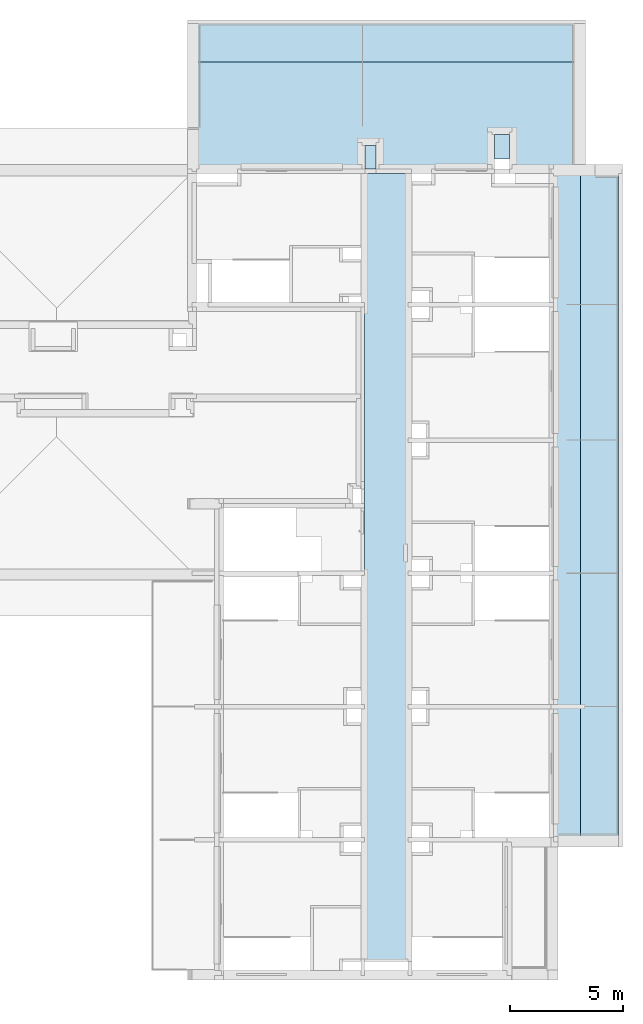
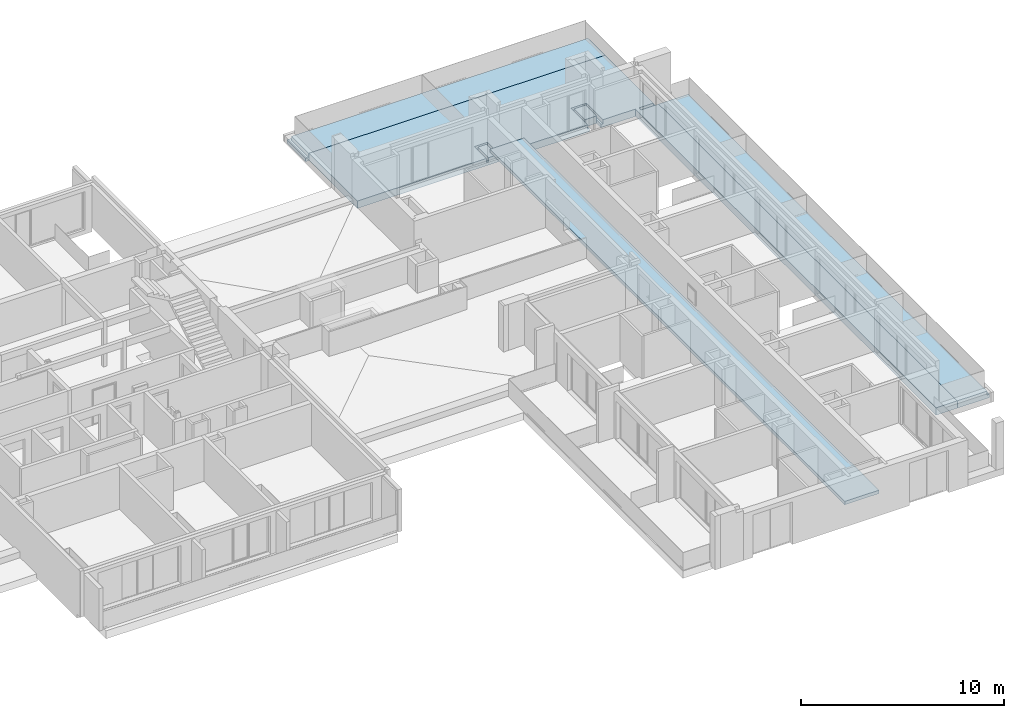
# One storey, part 7 of 30: 4 slabs.
"""IFC2X3 building model written with IfcOpenShell, lengths in millimetres."""

from ifc_helpers import new_model, entity, si_unit, converted_unit, derived_unit, money_unit, direction, frame, origin_with_axes, place, context, subcontext, project, spatial, faceted_brep, material, material_list, type_object, element, save


model = new_model("IFC2X3")

# Units and contexts
model_context = context("Model", 3, precision=0.01, world=origin_with_axes(), true_north=direction((0.34421633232, 0.938890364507)))
body_context = subcontext(model_context, "Body", "Model", "MODEL_VIEW")
ifc_project = project(units=[si_unit("LENGTHUNIT", "METRE", prefix="MILLI"), si_unit("AREAUNIT", "SQUARE_METRE"), si_unit("VOLUMEUNIT", "CUBIC_METRE"), converted_unit("PLANEANGLEUNIT", "DEGREE", entity("IfcPlaneAngleMeasure", 0.0174532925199), si_unit("PLANEANGLEUNIT", "RADIAN"), dimensions=[0, 0, 0, 0, 0, 0, 0]), si_unit("SOLIDANGLEUNIT", "STERADIAN"), money_unit("USD"), converted_unit("TIMEUNIT", "Year", entity("IfcTimeMeasure", 31556926.0), si_unit("TIMEUNIT", "SECOND"), dimensions=[0, 0, 1, 0, 0, 0, 0]), si_unit("MASSUNIT", "GRAM", prefix="KILO"), si_unit("THERMODYNAMICTEMPERATUREUNIT", "DEGREE_CELSIUS"), si_unit("LUMINOUSINTENSITYUNIT", "LUMEN"), si_unit("ENERGYUNIT", "JOULE", prefix="MEGA"), derived_unit("THERMALCONDUCTANCEUNIT", [(si_unit("POWERUNIT", "WATT"), 1), (si_unit("LENGTHUNIT", "METRE"), -1), (si_unit("THERMODYNAMICTEMPERATUREUNIT", "KELVIN"), -1)]), derived_unit("SPECIFICHEATCAPACITYUNIT", [(si_unit("ENERGYUNIT", "JOULE"), 1), (si_unit("MASSUNIT", "GRAM", prefix="KILO"), -1), (si_unit("THERMODYNAMICTEMPERATUREUNIT", "KELVIN"), -1)]), derived_unit("MASSDENSITYUNIT", [(si_unit("MASSUNIT", "GRAM", prefix="KILO"), 1), (si_unit("VOLUMEUNIT", "CUBIC_METRE"), -1)])], contexts=[model_context])

# Site, building, storey
site_placement = place(None, origin_with_axes())
site = spatial("IfcSite", under=ifc_project, at=site_placement, Name="USTRONIE MORSKIE", CompositionType="ELEMENT")
building_placement = place(site_placement, origin_with_axes())
building = spatial("IfcBuilding", under=site, at=building_placement, Name="Budynek", CompositionType="ELEMENT")
storey_placement = place(building_placement, frame((0.0, 0.0, 16000.0), z_axis=(0.0, 0.0, 1.0), x_axis=(1.0, 0.0, 0.0)))
storey = spatial("IfcBuildingStorey", under=building, at=storey_placement, Name="ANTRESOLA - KOND. TECHNICZNA", CompositionType="ELEMENT", Elevation=16000.0)

# Slabs
ifc_material_1 = material(Name="Beton konstrukcyjny B25")
slab_type_1 = type_object("IfcSlabType", Name="Beton konstrukcyjny B25 200", PredefinedType="FLOOR")
slab_1_placement = place(storey_placement, frame((416097.918273, 744601.199036, 720.0), z_axis=(0.0, 0.0, 1.0), x_axis=(1.0, 0.0, 0.0)))
element("IfcSlab", 1, at=slab_1_placement, inside=storey, type_object=slab_type_1, material=ifc_material_1, Name="P10", PredefinedType="FLOOR", context=body_context, shape_type="Brep", body=[
    faceted_brep([(0.0, 0.0, 0.0), (0.0, 0.0, -200.0), (-2.16643911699e-05, -34900.0, -200.0), (-2.16643911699e-05, -34900.0, 0.0), (1940.00264606, 0.0, 0.0), (1940.00264606, 0.0, -200.0), (1940.00264606, -34900.0, -200.0), (1940.00264606, -34900.0, 0.0)], [[[0, 1, 2, 3]], [[4, 5, 1, 0]], [[1, 5, 6, 2]], [[3, 2, 6, 7]], [[4, 0, 3, 7]], [[7, 6, 5, 4]]]),
])
ifc_material_2 = material(Name="Płytki okładzinowe")
ifc_material_3 = material(Name="Wylewka")
ifc_material_4 = material(Name="Płyty styropianowe twarde")
ifc_material_5 = material(Name="Membrana przeciwwilgociowa")
ifc_material_6 = material(Name="Tynk zewnętrzny")
ifc_material_list_1 = material_list([ifc_material_2, ifc_material_3, ifc_material_4, ifc_material_5, ifc_material_1, ifc_material_6])
slab_type_2 = type_object("IfcSlabType", Name="Balkony na FAT 2 450", PredefinedType="FLOOR")
slab_2_placement = place(storey_placement, frame((427517.914603, 744601.199036, 79.9999979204), z_axis=(0.0, 0.0, 1.0), x_axis=(1.0, 0.0, 0.0)))
element("IfcSlab", 2, at=slab_2_placement, inside=storey, type_object=slab_type_2, material=ifc_material_list_1, Name="P9", PredefinedType="FLOOR", context=body_context, shape_type="Brep", body=[
    faceted_brep([(-160.0, -29400.0, 0.0), (-160.0, -1.13686837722e-10, 0.0), (-1849.99368373, 0.0, 0.0), (-1849.99368373, -29400.0, 0.0), (-160.0, -1.13686837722e-10, -25.0), (-160.0, -29400.0, -25.0), (-1849.99368373, 0.0, -25.0), (-1849.99368373, -29400.0, -25.0)], [[[0, 1, 2, 3]], [[4, 1, 0, 5]], [[1, 4, 6, 2]], [[6, 7, 3, 2]], [[5, 0, 3, 7]], [[4, 5, 7, 6]]]),
    faceted_brep([(-160.0, -29400.0, -25.0), (-160.0, -1.13686837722e-10, -25.0), (-1849.99368373, 0.0, -25.0), (-1849.99368373, -29400.0, -25.0), (-160.0, -1.13686837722e-10, -85.0), (-160.0, -29400.0, -85.0), (-1849.99368373, 0.0, -85.0), (-1849.99368373, -29400.0, -85.0)], [[[0, 1, 2, 3]], [[4, 1, 0, 5]], [[1, 4, 6, 2]], [[6, 7, 3, 2]], [[5, 0, 3, 7]], [[4, 5, 7, 6]]]),
    faceted_brep([(-160.0, -29400.0, -85.0), (-160.0, -1.13686837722e-10, -85.0), (-1849.99368373, 0.0, -85.0), (-1849.99368373, -29400.0, -85.0), (-160.0, -1.13686837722e-10, -235.0), (-160.0, -29400.0, -235.0), (-1849.99368373, 0.0, -235.0), (-1849.99368373, -29400.0, -235.0)], [[[0, 1, 2, 3]], [[4, 1, 0, 5]], [[1, 4, 6, 2]], [[6, 7, 3, 2]], [[5, 0, 3, 7]], [[4, 5, 7, 6]]]),
    faceted_brep([(-160.0, -29400.0, -235.0), (-160.0, -1.13686837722e-10, -235.0), (-1849.99368373, 0.0, -235.0), (-1849.99368373, -29400.0, -235.0), (-160.0, -1.13686837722e-10, -240.0), (-160.0, -29400.0, -240.0), (-1849.99368373, 0.0, -240.0), (-1849.99368373, -29400.0, -240.0)], [[[0, 1, 2, 3]], [[4, 1, 0, 5]], [[1, 4, 6, 2]], [[6, 7, 3, 2]], [[5, 0, 3, 7]], [[4, 5, 7, 6]]]),
    faceted_brep([(-10.0, -29400.0, -240.0), (-10.0, 0.0, -240.0), (-1849.99368373, 0.0, -240.0), (-1849.99368373, -29400.0, -240.0), (-10.0, 0.0, -439.999999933), (-10.0, -29400.0, -439.999999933), (-1849.99368373, 0.0, -440.0), (-1849.99368373, -29400.0, -440.0)], [[[0, 1, 2, 3]], [[4, 1, 0, 5]], [[1, 4, 6, 2]], [[6, 7, 3, 2]], [[5, 0, 3, 7]], [[4, 5, 7, 6]]]),
    faceted_brep([(-1649.99368373, -29300.0, -439.999999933), (0.00613435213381, -29300.0, -439.999999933), (0.00613435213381, -99.9999999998, -439.999999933), (-1649.99368373, -99.9999999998, -440.0), (0.00613435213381, -29300.0, -450.0), (-1649.99368373, -29300.0, -450.0), (0.00613435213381, -99.9999999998, -450.0), (-1649.99368373, -99.9999999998, -450.0)], [[[0, 1, 2, 3]], [[4, 1, 0, 5]], [[1, 4, 6, 2]], [[3, 2, 6, 7]], [[5, 0, 3, 7]], [[4, 5, 7, 6]]]),
])
slab_3_placement = place(storey_placement, frame((408467.920919, 751401.199036, 79.9999979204), z_axis=(0.0, 0.0, 1.0), x_axis=(1.0, 0.0, 0.0)))
element("IfcSlab", 3, at=slab_3_placement, inside=storey, type_object=slab_type_2, material=ifc_material_list_1, Name="P3", PredefinedType="FLOOR", context=body_context, shape_type="Brep", body=[
    faceted_brep([(180.0, -160.002103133, -25.0), (180.0, -160.002103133, 0.0), (17020.0, -160.002103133, 0.0), (17020.0, -160.002103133, -25.0), (180.0, -1850.0, 0.0), (180.0, -1850.0, -25.0), (17020.0, -1850.0, 0.0), (17020.0, -1850.0, -25.0)], [[[0, 1, 2, 3]], [[4, 1, 0, 5]], [[1, 4, 6, 2]], [[3, 2, 6, 7]], [[5, 0, 3, 7]], [[4, 5, 7, 6]]]),
    faceted_brep([(180.0, -160.002103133, -85.0), (180.0, -160.002103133, -25.0), (17020.0, -160.002103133, -25.0), (17020.0, -160.002103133, -85.0), (180.0, -1850.0, -25.0), (180.0, -1850.0, -85.0), (17020.0, -1850.0, -25.0), (17020.0, -1850.0, -85.0)], [[[0, 1, 2, 3]], [[4, 1, 0, 5]], [[1, 4, 6, 2]], [[3, 2, 6, 7]], [[5, 0, 3, 7]], [[4, 5, 7, 6]]]),
    faceted_brep([(180.0, -160.002103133, -235.0), (180.0, -160.002103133, -85.0), (17020.0, -160.002103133, -85.0), (17020.0, -160.002103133, -235.0), (180.0, -1850.0, -85.0), (180.0, -1850.0, -235.0), (17020.0, -1850.0, -85.0), (17020.0, -1850.0, -235.0)], [[[0, 1, 2, 3]], [[4, 1, 0, 5]], [[1, 4, 6, 2]], [[3, 2, 6, 7]], [[5, 0, 3, 7]], [[4, 5, 7, 6]]]),
    faceted_brep([(180.0, -160.002103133, -240.0), (180.0, -160.002103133, -235.0), (17020.0, -160.002103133, -235.0), (17020.0, -160.002103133, -240.0), (180.0, -1850.0, -235.0), (180.0, -1850.0, -240.0), (17020.0, -1850.0, -235.0), (17020.0, -1850.0, -240.0)], [[[0, 1, 2, 3]], [[4, 1, 0, 5]], [[1, 4, 6, 2]], [[3, 2, 6, 7]], [[5, 0, 3, 7]], [[4, 5, 7, 6]]]),
    faceted_brep([(17200.0, -10.0021031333, -439.99999792), (17200.0, -10.0021031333, -240.0), (17200.0, -1850.0, -240.0), (17200.0, -1850.0, -440.0), (0.0, -10.0021031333, -240.0), (0.0, -10.0021031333, -439.99999792), (3.41060513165e-10, -1850.0, -240.0), (3.41060513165e-10, -1850.0, -440.0)], [[[0, 1, 2, 3]], [[4, 1, 0, 5]], [[1, 4, 6, 2]], [[7, 3, 2, 6]], [[5, 0, 3, 7]], [[4, 5, 7, 6]]]),
    faceted_brep([(300.0, -0.000181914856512, -450.0), (300.0, -0.000181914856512, -439.99999901), (16900.0, -0.000181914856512, -440.0), (16900.0, -0.000181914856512, -450.0), (300.0, -1650.00016847, -439.99999901), (300.0, -1650.00016847, -450.0), (16900.0, -1650.0141512, -439.999999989), (16900.0, -1650.0141512, -450.0)], [[[0, 1, 2, 3]], [[4, 1, 0, 5]], [[1, 4, 6, 2]], [[6, 7, 3, 2]], [[5, 0, 3, 7]], [[4, 5, 7, 6]]]),
])
ifc_material_list_2 = material_list([ifc_material_2, ifc_material_3, ifc_material_4, ifc_material_5, ifc_material_1])
slab_type_3 = type_object("IfcSlabType", Name="Tarasy kond.5 440", PredefinedType="FLOOR")
slab_4_placement = place(storey_placement, frame((408667.914324, 744801.199036, 79.9999979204), z_axis=(0.0, 0.0, 1.0), x_axis=(1.0, 0.0, 0.0)))
element("IfcSlab", 4, at=slab_4_placement, inside=storey, type_object=slab_type_3, material=ifc_material_list_2, Name="P10", PredefinedType="FLOOR", context=body_context, shape_type="Brep", body=[
    faceted_brep([(7330.00661681, 0.0, 0.0), (7330.00661681, 1049.99914858, 0.0), (7330.00661681, 1169.99914858, 0.0), (7950.00576538, 1169.99914858, 0.0), (8070.00576538, 1169.99914858, 0.0), (8070.00576538, 0.0, 0.0), (13080.0065951, 0.0, 0.0), (13080.0065951, 1520.0, 0.0), (13080.0065951, 1640.0, 0.0), (13850.0065951, 1640.0, 0.0), (13970.0065951, 1640.0, 0.0), (13970.0065951, 0.0, 0.0), (15800.0065951, -2.27373675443e-10, 0.0), (15800.0065951, -29600.0, 0.0), (17000.0065951, -29600.0, 0.0), (17000.0065951, -200.0, 0.0), (16010.0065951, -200.0, 0.0), (16010.0065951, 0.0, 0.0), (16820.0065951, 0.0, 0.0), (16820.0065951, 4750.0, 0.0), (0.0, 4750.0, 0.0), (0.0, 0.0, 0.0), (7330.00661681, 1049.99914858, -25.0), (7330.00661681, 0.0, -25.0), (7330.00661681, 1169.99914858, -25.0), (7950.00576538, 1169.99914858, -25.0), (8070.00576538, 1169.99914858, -25.0), (8070.00576538, 0.0, -25.0), (13080.0065951, 0.0, -25.0), (13080.0065951, 1520.0, -25.0), (13080.0065951, 1640.0, -25.0), (13850.0065951, 1640.0, -25.0), (13970.0065951, 1640.0, -25.0), (13970.0065951, 0.0, -25.0), (15800.0065951, -2.27373675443e-10, -25.0), (15800.0065951, -29600.0, -25.0), (17000.0065951, -29600.0, -25.0), (17000.0065951, -200.0, -25.0), (16010.0065951, -200.0, -25.0), (16010.0065951, 0.0, -25.0), (16820.0065951, 0.0, -25.0), (16820.0065951, 4750.0, -25.0), (0.0, 4750.0, -25.0), (0.0, 0.0, -25.0)], [[[0, 1, 2, 3, 4, 5, 6, 7, 8, 9, 10, 11, 12, 13, 14, 15, 16, 17, 18, 19, 20, 21]], [[22, 1, 0, 23]], [[1, 22, 24, 2]], [[25, 3, 2, 24]], [[3, 25, 26, 4]], [[5, 4, 26, 27]], [[28, 6, 5, 27]], [[29, 7, 6, 28]], [[7, 29, 30, 8]], [[31, 9, 8, 30]], [[9, 31, 32, 10]], [[10, 32, 33, 11]], [[11, 33, 34, 12]], [[34, 35, 13, 12]], [[35, 36, 14, 13]], [[37, 15, 14, 36]], [[16, 15, 37, 38]], [[17, 16, 38, 39]], [[40, 18, 17, 39]], [[18, 40, 41, 19]], [[19, 41, 42, 20]], [[42, 43, 21, 20]], [[23, 0, 21, 43]], [[22, 23, 43, 42, 41, 40, 39, 38, 37, 36, 35, 34, 33, 32, 31, 30, 29, 28, 27, 26, 25, 24]]]),
    faceted_brep([(13200.0065951, 1520.0, -25.0), (13200.0065951, 1520.0, 0.0), (13850.0065951, 1520.0, 0.0), (13850.0065951, 1520.0, -25.0), (13200.0065951, 450.0, 0.0), (13200.0065951, 450.0, -25.0), (13850.0065951, 450.0, 0.0), (13850.0065951, 450.0, -25.0)], [[[0, 1, 2, 3]], [[4, 1, 0, 5]], [[1, 4, 6, 2]], [[3, 2, 6, 7]], [[5, 0, 3, 7]], [[4, 5, 7, 6]]]),
    faceted_brep([(7450.00661681, 1049.99914858, -25.0), (7450.00661681, 1049.99914858, 0.0), (7950.00576538, 1049.99914858, 0.0), (7950.00576538, 1049.99914858, -25.0), (7450.00659514, 0.0, 0.0), (7450.00659514, 0.0, -25.0), (7950.00576538, 0.0, 0.0), (7950.00576538, 0.0, -25.0)], [[[0, 1, 2, 3]], [[4, 1, 0, 5]], [[1, 4, 6, 2]], [[3, 2, 6, 7]], [[5, 0, 3, 7]], [[4, 5, 7, 6]]]),
    faceted_brep([(7330.00661681, 0.0, -25.0), (7330.00661681, 1049.99914858, -25.0), (7330.00661681, 1169.99914858, -25.0), (7950.00576538, 1169.99914858, -25.0), (8070.00576538, 1169.99914858, -25.0), (8070.00576538, 0.0, -25.0), (13080.0065951, 0.0, -25.0), (13080.0065951, 1520.0, -25.0), (13080.0065951, 1640.0, -25.0), (13850.0065951, 1640.0, -25.0), (13970.0065951, 1640.0, -25.0), (13970.0065951, 0.0, -25.0), (15800.0065951, -2.27373675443e-10, -25.0), (15800.0065951, -29600.0, -25.0), (17000.0065951, -29600.0, -25.0), (17000.0065951, -200.0, -25.0), (16010.0065951, -200.0, -25.0), (16010.0065951, 0.0, -25.0), (16820.0065951, 0.0, -25.0), (16820.0065951, 4750.0, -25.0), (0.0, 4750.0, -25.0), (0.0, 0.0, -25.0), (7330.00661681, 1049.99914858, -85.0), (7330.00661681, 0.0, -85.0), (7330.00661681, 1169.99914858, -85.0), (7950.00576538, 1169.99914858, -85.0), (8070.00576538, 1169.99914858, -85.0), (8070.00576538, 0.0, -85.0), (13080.0065951, 0.0, -85.0), (13080.0065951, 1520.0, -85.0), (13080.0065951, 1640.0, -85.0), (13850.0065951, 1640.0, -85.0), (13970.0065951, 1640.0, -85.0), (13970.0065951, 0.0, -85.0), (15800.0065951, -2.27373675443e-10, -85.0), (15800.0065951, -29600.0, -85.0), (17000.0065951, -29600.0, -85.0), (17000.0065951, -200.0, -85.0), (16010.0065951, -200.0, -85.0), (16010.0065951, 0.0, -85.0), (16820.0065951, 0.0, -85.0), (16820.0065951, 4750.0, -85.0), (0.0, 4750.0, -85.0), (0.0, 0.0, -85.0)], [[[0, 1, 2, 3, 4, 5, 6, 7, 8, 9, 10, 11, 12, 13, 14, 15, 16, 17, 18, 19, 20, 21]], [[22, 1, 0, 23]], [[1, 22, 24, 2]], [[25, 3, 2, 24]], [[3, 25, 26, 4]], [[5, 4, 26, 27]], [[28, 6, 5, 27]], [[29, 7, 6, 28]], [[7, 29, 30, 8]], [[31, 9, 8, 30]], [[9, 31, 32, 10]], [[10, 32, 33, 11]], [[11, 33, 34, 12]], [[34, 35, 13, 12]], [[35, 36, 14, 13]], [[37, 15, 14, 36]], [[16, 15, 37, 38]], [[17, 16, 38, 39]], [[40, 18, 17, 39]], [[18, 40, 41, 19]], [[19, 41, 42, 20]], [[42, 43, 21, 20]], [[23, 0, 21, 43]], [[22, 23, 43, 42, 41, 40, 39, 38, 37, 36, 35, 34, 33, 32, 31, 30, 29, 28, 27, 26, 25, 24]]]),
    faceted_brep([(13200.0065951, 1520.0, -85.0), (13200.0065951, 1520.0, -25.0), (13850.0065951, 1520.0, -25.0), (13850.0065951, 1520.0, -85.0), (13200.0065951, 450.0, -25.0), (13200.0065951, 450.0, -85.0), (13850.0065951, 450.0, -25.0), (13850.0065951, 450.0, -85.0)], [[[0, 1, 2, 3]], [[4, 1, 0, 5]], [[1, 4, 6, 2]], [[3, 2, 6, 7]], [[5, 0, 3, 7]], [[4, 5, 7, 6]]]),
    faceted_brep([(7450.00661681, 1049.99914858, -85.0), (7450.00661681, 1049.99914858, -25.0), (7950.00576538, 1049.99914858, -25.0), (7950.00576538, 1049.99914858, -85.0), (7450.00659514, 0.0, -25.0), (7450.00659514, 0.0, -85.0), (7950.00576538, 0.0, -25.0), (7950.00576538, 0.0, -85.0)], [[[0, 1, 2, 3]], [[4, 1, 0, 5]], [[1, 4, 6, 2]], [[3, 2, 6, 7]], [[5, 0, 3, 7]], [[4, 5, 7, 6]]]),
    faceted_brep([(7330.00661681, 0.0, -85.0), (7330.00661681, 1049.99914858, -85.0), (7330.00661681, 1169.99914858, -85.0), (7950.00576538, 1169.99914858, -85.0), (8070.00576538, 1169.99914858, -85.0), (8070.00576538, 0.0, -85.0), (13080.0065951, 0.0, -85.0), (13080.0065951, 1520.0, -85.0), (13080.0065951, 1640.0, -85.0), (13850.0065951, 1640.0, -85.0), (13970.0065951, 1640.0, -85.0), (13970.0065951, 0.0, -85.0), (15800.0065951, -2.27373675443e-10, -85.0), (15800.0065951, -29600.0, -85.0), (17000.0065951, -29600.0, -85.0), (17000.0065951, -200.0, -85.0), (16010.0065951, -200.0, -85.0), (16010.0065951, 0.0, -85.0), (16820.0065951, 0.0, -85.0), (16820.0065951, 4750.0, -85.0), (0.0, 4750.0, -85.0), (0.0, 0.0, -85.0), (7330.00661681, 1049.99914858, -235.0), (7330.00661681, 0.0, -235.0), (7330.00661681, 1169.99914858, -235.0), (7950.00576538, 1169.99914858, -235.0), (8070.00576538, 1169.99914858, -235.0), (8070.00576538, 0.0, -235.0), (13080.0065951, 0.0, -235.0), (13080.0065951, 1520.0, -235.0), (13080.0065951, 1640.0, -235.0), (13850.0065951, 1640.0, -235.0), (13970.0065951, 1640.0, -235.0), (13970.0065951, 0.0, -235.0), (15800.0065951, -2.27373675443e-10, -235.0), (15800.0065951, -29600.0, -235.0), (17000.0065951, -29600.0, -235.0), (17000.0065951, -200.0, -235.0), (16010.0065951, -200.0, -235.0), (16010.0065951, 0.0, -235.0), (16820.0065951, 0.0, -235.0), (16820.0065951, 4750.0, -235.0), (0.0, 4750.0, -235.0), (0.0, 0.0, -235.0)], [[[0, 1, 2, 3, 4, 5, 6, 7, 8, 9, 10, 11, 12, 13, 14, 15, 16, 17, 18, 19, 20, 21]], [[22, 1, 0, 23]], [[1, 22, 24, 2]], [[25, 3, 2, 24]], [[3, 25, 26, 4]], [[5, 4, 26, 27]], [[28, 6, 5, 27]], [[29, 7, 6, 28]], [[7, 29, 30, 8]], [[31, 9, 8, 30]], [[9, 31, 32, 10]], [[10, 32, 33, 11]], [[11, 33, 34, 12]], [[34, 35, 13, 12]], [[35, 36, 14, 13]], [[37, 15, 14, 36]], [[16, 15, 37, 38]], [[17, 16, 38, 39]], [[40, 18, 17, 39]], [[18, 40, 41, 19]], [[19, 41, 42, 20]], [[42, 43, 21, 20]], [[23, 0, 21, 43]], [[22, 23, 43, 42, 41, 40, 39, 38, 37, 36, 35, 34, 33, 32, 31, 30, 29, 28, 27, 26, 25, 24]]]),
    faceted_brep([(13200.0065951, 1520.0, -235.0), (13200.0065951, 1520.0, -85.0), (13850.0065951, 1520.0, -85.0), (13850.0065951, 1520.0, -235.0), (13200.0065951, 450.0, -85.0), (13200.0065951, 450.0, -235.0), (13850.0065951, 450.0, -85.0), (13850.0065951, 450.0, -235.0)], [[[0, 1, 2, 3]], [[4, 1, 0, 5]], [[1, 4, 6, 2]], [[3, 2, 6, 7]], [[5, 0, 3, 7]], [[4, 5, 7, 6]]]),
    faceted_brep([(7450.00661681, 1049.99914858, -235.0), (7450.00661681, 1049.99914858, -85.0), (7950.00576538, 1049.99914858, -85.0), (7950.00576538, 1049.99914858, -235.0), (7450.00659514, 0.0, -85.0), (7450.00659514, 0.0, -235.0), (7950.00576538, 0.0, -85.0), (7950.00576538, 0.0, -235.0)], [[[0, 1, 2, 3]], [[4, 1, 0, 5]], [[1, 4, 6, 2]], [[3, 2, 6, 7]], [[5, 0, 3, 7]], [[4, 5, 7, 6]]]),
    faceted_brep([(7330.00661681, 0.0, -235.0), (7330.00661681, 1049.99914858, -235.0), (7330.00661681, 1169.99914858, -235.0), (7950.00576538, 1169.99914858, -235.0), (8070.00576538, 1169.99914858, -235.0), (8070.00576538, 0.0, -235.0), (13080.0065951, 0.0, -235.0), (13080.0065951, 1520.0, -235.0), (13080.0065951, 1640.0, -235.0), (13850.0065951, 1640.0, -235.0), (13970.0065951, 1640.0, -235.0), (13970.0065951, 0.0, -235.0), (15800.0065951, -2.27373675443e-10, -235.0), (15800.0065951, -29600.0, -235.0), (17000.0065951, -29600.0, -235.0), (17000.0065951, -200.0, -235.0), (16010.0065951, -200.0, -235.0), (16010.0065951, 0.0, -235.0), (16820.0065951, 0.0, -235.0), (16820.0065951, 4750.0, -235.0), (0.0, 4750.0, -235.0), (0.0, 0.0, -235.0), (7330.00661681, 1049.99914858, -239.99999792), (7330.00661681, 0.0, -239.99999792), (7330.00661681, 1169.99914858, -239.99999792), (7950.00576538, 1169.99914858, -239.99999792), (8070.00576538, 1169.99914858, -239.99999792), (8070.00576538, 0.0, -239.99999792), (13080.0065951, 0.0, -239.99999792), (13080.0065951, 1520.0, -239.99999792), (13080.0065951, 1640.0, -239.99999792), (13850.0065951, 1640.0, -239.99999792), (13970.0065951, 1640.0, -239.99999792), (13970.0065951, 0.0, -239.99999792), (15800.0065951, -2.27373675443e-10, -240.0), (15800.0065951, -29600.0, -240.0), (17000.0065951, -29600.0, -240.0), (17000.0065951, -200.0, -240.0), (16010.0065951, -200.0, -240.0), (16010.0065951, 0.0, -240.0), (16820.0065951, 0.0, -240.0), (16820.0065951, 4750.0, -240.0), (0.0, 4750.0, -240.0), (0.0, 0.0, -240.0)], [[[0, 1, 2, 3, 4, 5, 6, 7, 8, 9, 10, 11, 12, 13, 14, 15, 16, 17, 18, 19, 20, 21]], [[22, 1, 0, 23]], [[1, 22, 24, 2]], [[25, 3, 2, 24]], [[3, 25, 26, 4]], [[5, 4, 26, 27]], [[28, 6, 5, 27]], [[29, 7, 6, 28]], [[7, 29, 30, 8]], [[31, 9, 8, 30]], [[9, 31, 32, 10]], [[10, 32, 33, 11]], [[11, 33, 34, 12]], [[34, 35, 13, 12]], [[35, 36, 14, 13]], [[37, 15, 14, 36]], [[16, 15, 37, 38]], [[17, 16, 38, 39]], [[40, 18, 17, 39]], [[18, 40, 41, 19]], [[19, 41, 42, 20]], [[42, 43, 21, 20]], [[23, 0, 21, 43]], [[22, 23, 43, 42, 41, 40, 39, 38, 37, 36, 35, 34, 33, 32, 31, 30, 29, 28, 27, 26, 25, 24]]]),
    faceted_brep([(13200.0065951, 1520.0, -239.99999792), (13200.0065951, 1520.0, -235.0), (13850.0065951, 1520.0, -235.0), (13850.0065951, 1520.0, -239.99999792), (13200.0065951, 450.0, -235.0), (13200.0065951, 450.0, -239.99999792), (13850.0065951, 450.0, -235.0), (13850.0065951, 450.0, -239.99999792)], [[[0, 1, 2, 3]], [[4, 1, 0, 5]], [[1, 4, 6, 2]], [[3, 2, 6, 7]], [[5, 0, 3, 7]], [[4, 5, 7, 6]]]),
    faceted_brep([(7450.00661681, 1049.99914858, -239.99999792), (7450.00661681, 1049.99914858, -235.0), (7950.00576538, 1049.99914858, -235.0), (7950.00576538, 1049.99914858, -239.99999792), (7450.00659514, 0.0, -235.0), (7450.00659514, 0.0, -239.99999792), (7950.00576538, 0.0, -235.0), (7950.00576538, 0.0, -239.99999792)], [[[0, 1, 2, 3]], [[4, 1, 0, 5]], [[1, 4, 6, 2]], [[3, 2, 6, 7]], [[5, 0, 3, 7]], [[4, 5, 7, 6]]]),
    faceted_brep([(0.0, 0.0, -240.0), (0.0, 0.0, -440.0), (13200.0065951, 0.0, -440.0), (13200.0065951, 0.0, -240.0), (0.0, 4750.0, -240.0), (0.0, 4750.0, -440.0), (17000.0065951, 4750.0, -440.0), (17000.0065951, -29600.0, -440.0), (15800.0065951, -29600.0, -440.0), (15800.0065951, -2.27373675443e-10, -440.0), (13850.0065951, 0.0, -440.0), (13850.0065951, 450.0, -440.0), (13200.0065951, 450.0, -440.0), (13200.0065951, 450.0, -240.0), (13850.0065951, 450.0, -240.0), (13850.0065951, 0.0, -240.0), (15800.0065951, -2.27373675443e-10, -240.0), (15800.0065951, -29600.0, -240.0), (17000.0065951, -29600.0, -240.0), (17000.0065951, 4750.0, -240.0)], [[[0, 1, 2, 3]], [[4, 5, 1, 0]], [[1, 5, 6, 7, 8, 9, 10, 11, 12, 2]], [[3, 2, 12, 13]], [[4, 0, 3, 13, 14, 15, 16, 17, 18, 19]], [[19, 6, 5, 4]], [[18, 7, 6, 19]], [[17, 8, 7, 18]], [[16, 9, 8, 17]], [[15, 10, 9, 16]], [[14, 11, 10, 15]], [[13, 12, 11, 14]]]),
])

save(model, "model.ifc")
